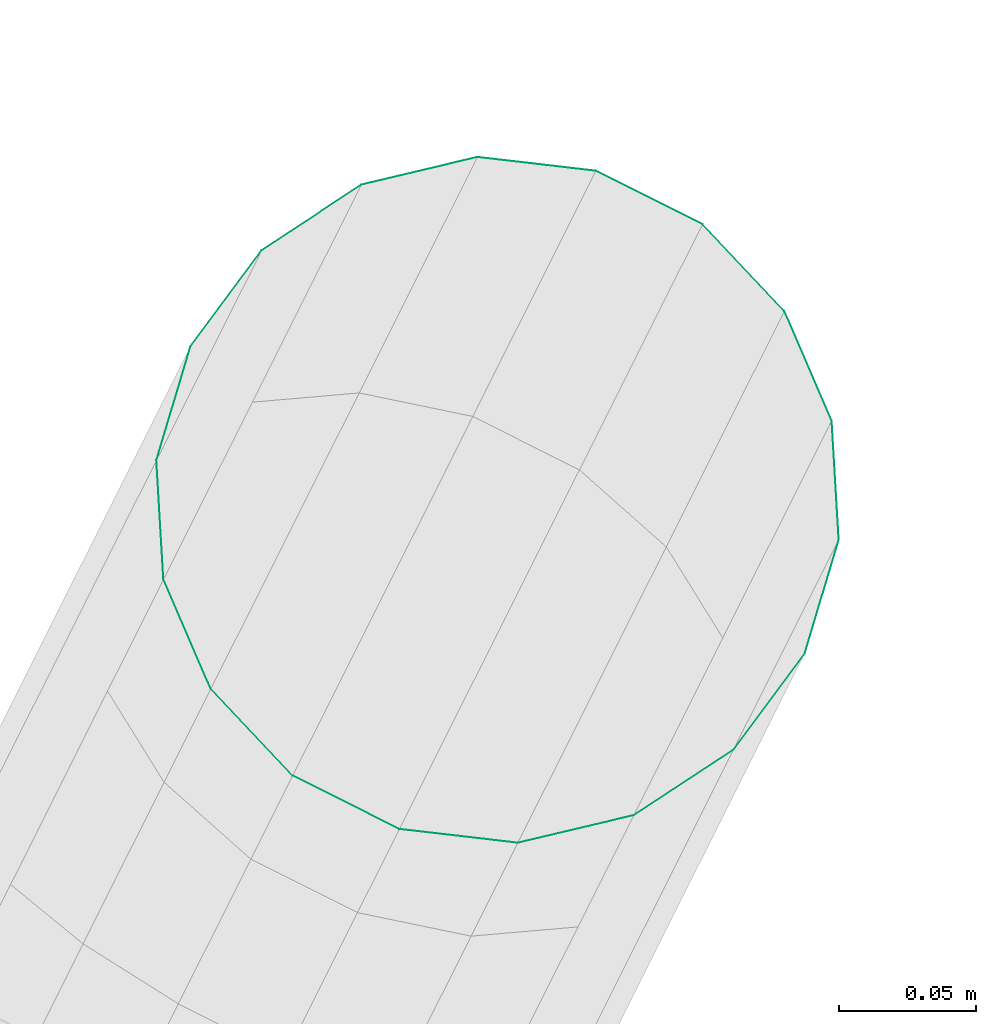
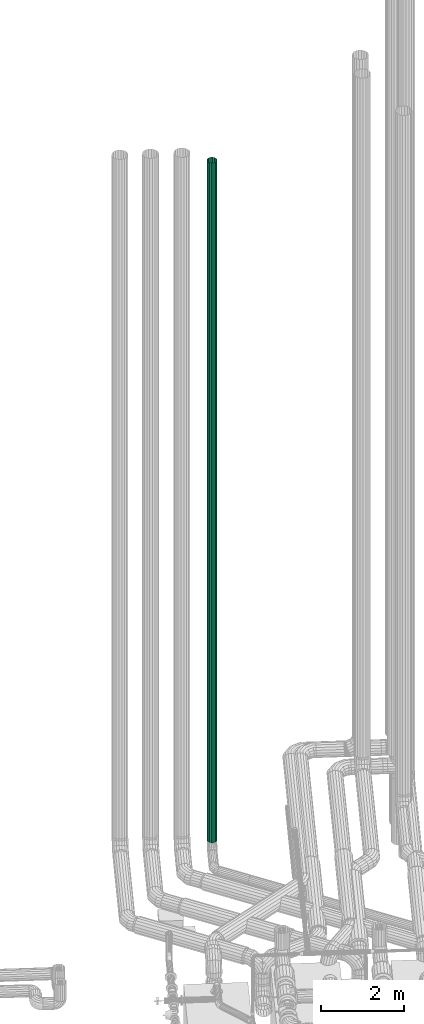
# One storey, part 21 of 206: 1 flow segment.
"""IFC2X3 building model written with IfcOpenShell, lengths in metres."""

from ifc_helpers import new_model, si_unit, derived_unit, direction, frame, origin, place, context, subcontext, project, spatial, face_set, surface_model, source, transform, mapped, material, type_object, type_shapes, element, save


model = new_model("IFC2X3")

# Units and contexts
model_context = context("Model", 3, precision=5.2338327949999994e-05, world=origin(), true_north=direction((0.0, 1.0)))
body_context = subcontext(model_context, "Body", "Model", "MODEL_VIEW")
ifc_project = project(units=[si_unit("LENGTHUNIT", "METRE"), si_unit("AREAUNIT", "SQUARE_METRE"), si_unit("VOLUMEUNIT", "CUBIC_METRE"), si_unit("MASSUNIT", "GRAM", prefix="KILO"), si_unit("PLANEANGLEUNIT", "RADIAN"), derived_unit("THERMALTRANSMITTANCEUNIT", [(si_unit("MASSUNIT", "GRAM", prefix="KILO"), 1), (si_unit("THERMODYNAMICTEMPERATUREUNIT", "KELVIN"), -1), (si_unit("TIMEUNIT", "SECOND"), -3)])], contexts=[model_context])

# Site, building, storey
site_placement = place(None, frame((0.0, 0.0, 0.0), z_axis=(0.0, 0.0, 1.0), x_axis=(0.8939966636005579, -0.4480736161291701, 0.0)))
site = spatial("IfcSite", under=ifc_project, at=site_placement, Name="Default", CompositionType="ELEMENT")
building_placement = place(site_placement, origin())
building = spatial("IfcBuilding", under=site, at=building_placement, CompositionType="ELEMENT")
storey_placement = place(building_placement, origin())
storey = spatial("IfcBuildingStorey", under=building, at=storey_placement, Name="Erdgeschoss", CompositionType="ELEMENT", Elevation=0.0)

# Flow segment
ifc_material = material(Name="IfcSurfaceStyle #251447")
distribution_element_type = type_object("IfcDistributionElementType", Name="Wickelfalzrohr 284810:Wickelfalzrohr 284810", material=ifc_material)
shared_shape = source(origin(), body_context, "Body", "SurfaceModel", [
    surface_model("IfcFaceBasedSurfaceModel", [(21.549770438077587, 13.205337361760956, 2.4499999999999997), (21.557308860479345, 13.162584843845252, 2.4499999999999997), (21.557308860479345, 13.162584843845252, 22.45), (21.549770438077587, 13.205337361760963, 22.45), (21.57901488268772, 13.124988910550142, 2.4499999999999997), (21.579014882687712, 13.12498891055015, 22.45), (21.612270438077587, 13.097084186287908, 2.4499999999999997), (21.612270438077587, 13.097084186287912, 22.45), (21.65306441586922, 13.082236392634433, 2.4499999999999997), (21.653064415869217, 13.08223639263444, 22.45), (21.69647646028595, 13.08223639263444, 2.4499999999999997), (21.696476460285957, 13.082236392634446, 22.45), (21.737270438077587, 13.097084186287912, 2.4499999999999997), (21.737270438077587, 13.097084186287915, 22.45), (21.770525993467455, 13.124988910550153, 2.4499999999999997), (21.770525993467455, 13.124988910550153, 22.45), (21.792232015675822, 13.162584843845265, 2.4499999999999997), (21.792232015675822, 13.162584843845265, 22.45), (21.799770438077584, 13.205337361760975, 2.4499999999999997), (21.799770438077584, 13.205337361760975, 22.45), (21.792232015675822, 13.248089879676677, 2.4499999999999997), (21.79223201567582, 13.248089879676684, 22.45), (21.770525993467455, 13.285685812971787, 2.4499999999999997), (21.770525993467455, 13.285685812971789, 22.45), (21.737270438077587, 13.313590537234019, 2.4499999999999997), (21.73727043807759, 13.313590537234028, 22.45), (21.69647646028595, 13.328438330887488, 2.4499999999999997), (21.696476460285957, 13.328438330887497, 22.45), (21.65306441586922, 13.328438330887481, 2.4499999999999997), (21.653064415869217, 13.328438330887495, 22.45), (21.612270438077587, 13.313590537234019, 2.4499999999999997), (21.61227043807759, 13.313590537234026, 22.45), (21.57901488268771, 13.285685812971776, 2.4499999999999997), (21.57901488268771, 13.285685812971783, 22.45), (21.557308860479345, 13.248089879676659, 2.4499999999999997), (21.557308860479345, 13.248089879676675, 22.45)], [face_set([[[0, 1, 2, 3]], [[1, 4, 5, 2]], [[4, 6, 7, 5]], [[6, 8, 9, 7]], [[8, 10, 11, 9]], [[10, 12, 13, 11]], [[12, 14, 15, 13]], [[14, 16, 17, 15]], [[16, 18, 19, 17]], [[18, 20, 21, 19]], [[20, 22, 23, 21]], [[22, 24, 25, 23]], [[24, 26, 27, 25]], [[26, 28, 29, 27]], [[28, 30, 31, 29]], [[30, 32, 33, 31]], [[32, 34, 35, 33]], [[34, 0, 3, 35]]])]),
])
type_shapes(distribution_element_type, [shared_shape])
flow_segment_placement = place(storey_placement, origin())
element("IfcFlowSegment", 1, at=flow_segment_placement, inside=storey, type_object=distribution_element_type, material=ifc_material, Name="Wickelfalzrohr", ObjectType="Wickelfalzrohr", context=body_context, shape_type="MappedRepresentation", body=[
    mapped(shared_shape, transform((0.0, 0.0, 0.0), scale=1.0)),
])

save(model, "model.ifc")
